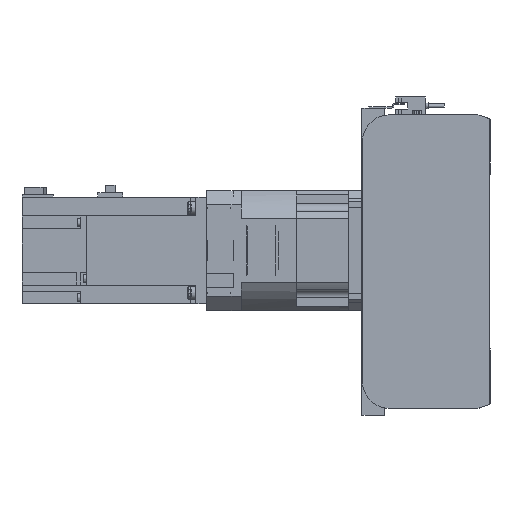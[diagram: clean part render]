
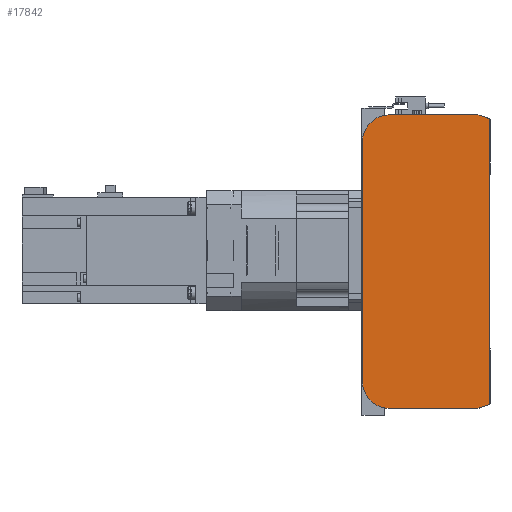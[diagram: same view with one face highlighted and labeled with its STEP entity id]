
A CAD part, left-side view. The second image highlights one B-rep face of the part: STEP entity #17842.
In plain terms, the highlighted planar face has unit normal (-1, 0, 0).
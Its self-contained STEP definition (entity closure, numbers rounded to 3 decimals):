
#1012=CIRCLE('',#19454,20.);
#1013=CIRCLE('',#19457,20.);
#4498=ORIENTED_EDGE('',*,*,#7752,.F.);
#4499=ORIENTED_EDGE('',*,*,#7794,.F.);
#4500=ORIENTED_EDGE('',*,*,#7792,.F.);
#4501=ORIENTED_EDGE('',*,*,#7790,.F.);
#4502=ORIENTED_EDGE('',*,*,#7779,.F.);
#4503=ORIENTED_EDGE('',*,*,#7770,.F.);
#4504=ORIENTED_EDGE('',*,*,#7766,.F.);
#4505=ORIENTED_EDGE('',*,*,#7763,.F.);
#7752=EDGE_CURVE('',#9723,#9724,#11323,.T.);
#7763=EDGE_CURVE('',#9724,#9731,#11334,.T.);
#7766=EDGE_CURVE('',#9731,#9733,#11337,.T.);
#7770=EDGE_CURVE('',#9733,#9734,#11341,.T.);
#7779=EDGE_CURVE('',#9734,#9740,#11350,.T.);
#7790=EDGE_CURVE('',#9740,#9747,#1012,.T.);
#7792=EDGE_CURVE('',#9747,#9748,#11362,.T.);
#7794=EDGE_CURVE('',#9748,#9723,#1013,.T.);
#9723=VERTEX_POINT('',#29388);
#9724=VERTEX_POINT('',#29390);
#9731=VERTEX_POINT('',#29409);
#9733=VERTEX_POINT('',#29415);
#9734=VERTEX_POINT('',#29421);
#9740=VERTEX_POINT('',#29437);
#9747=VERTEX_POINT('',#29456);
#9748=VERTEX_POINT('',#29460);
#11323=LINE('',#29389,#12894);
#11334=LINE('',#29408,#12905);
#11337=LINE('',#29414,#12908);
#11341=LINE('',#29420,#12912);
#11350=LINE('',#29436,#12921);
#11362=LINE('',#29459,#12933);
#12894=VECTOR('',#23601,1000.);
#12905=VECTOR('',#23614,1000.);
#12908=VECTOR('',#23619,1000.);
#12912=VECTOR('',#23625,1000.);
#12921=VECTOR('',#23636,1000.);
#12933=VECTOR('',#23654,1000.);
#14318=EDGE_LOOP('',(#4498,#4499,#4500,#4501,#4502,#4503,#4504,#4505));
#15922=FACE_BOUND('',#14318,.T.);
#16965=PLANE('',#19458);
#17842=ADVANCED_FACE('',(#15922),#16965,.F.);
#19454=AXIS2_PLACEMENT_3D('',#29455,#23649,#23650);
#19457=AXIS2_PLACEMENT_3D('',#29463,#23658,#23659);
#19458=AXIS2_PLACEMENT_3D('',#29464,#23660,#23661);
#23601=DIRECTION('',(0.,-1.,0.));
#23614=DIRECTION('',(0.,-0.945,-0.328));
#23619=DIRECTION('',(0.,0.,-1.));
#23625=DIRECTION('',(0.,0.945,-0.328));
#23636=DIRECTION('',(0.,1.,0.));
#23649=DIRECTION('',(1.,0.,0.));
#23650=DIRECTION('',(0.,0.,-1.));
#23654=DIRECTION('',(0.,0.,1.));
#23658=DIRECTION('',(1.,0.,0.));
#23659=DIRECTION('',(0.,0.,-1.));
#23660=DIRECTION('',(1.,0.,0.));
#23661=DIRECTION('',(0.,0.,-1.));
#29388=CARTESIAN_POINT('',(0.,75.5,110.));
#29389=CARTESIAN_POINT('',(0.,75.5,110.));
#29390=CARTESIAN_POINT('',(0.,9.,110.));
#29408=CARTESIAN_POINT('',(0.,9.,110.));
#29409=CARTESIAN_POINT('',(0.,0.5,107.05));
#29414=CARTESIAN_POINT('',(0.,0.5,107.05));
#29415=CARTESIAN_POINT('',(0.,0.5,-107.05));
#29420=CARTESIAN_POINT('',(0.,0.5,-107.05));
#29421=CARTESIAN_POINT('',(0.,9.,-110.));
#29436=CARTESIAN_POINT('',(0.,9.,-110.));
#29437=CARTESIAN_POINT('',(0.,75.5,-110.));
#29455=CARTESIAN_POINT('',(0.,75.5,-90.));
#29456=CARTESIAN_POINT('',(0.,95.5,-90.));
#29459=CARTESIAN_POINT('',(0.,95.5,-90.));
#29460=CARTESIAN_POINT('',(0.,95.5,90.));
#29463=CARTESIAN_POINT('',(0.,75.5,90.));
#29464=CARTESIAN_POINT('',(0.,75.5,-90.));
